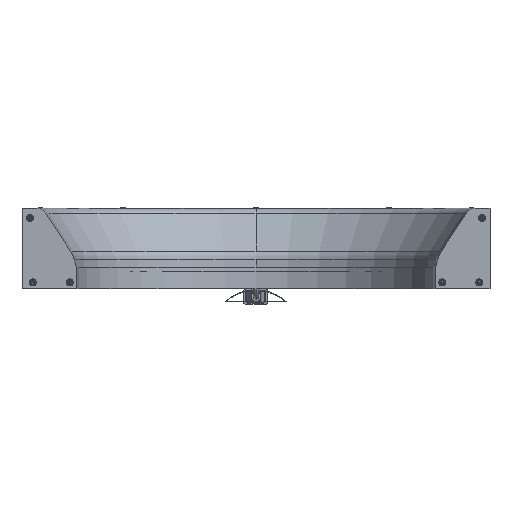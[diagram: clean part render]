
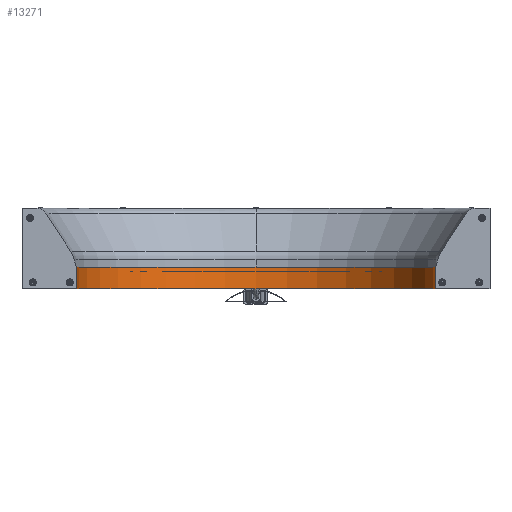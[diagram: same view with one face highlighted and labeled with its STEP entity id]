
A CAD part, left-side view. The second image highlights one B-rep face of the part: STEP entity #13271.
In plain terms, the highlighted cylindrical face has radius 82.5 mm (diameter 165 mm), a partial arc.
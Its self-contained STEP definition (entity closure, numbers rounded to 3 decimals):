
#11757=CARTESIAN_POINT('',(8.618,-138.567,52.822));
#11758=VERTEX_POINT('',#11757);
#11804=CARTESIAN_POINT('',(8.618,26.433,52.822));
#11805=VERTEX_POINT('',#11804);
#11934=CARTESIAN_POINT('',(8.618,-138.567,42.822));
#11935=VERTEX_POINT('',#11934);
#11936=CARTESIAN_POINT('',(8.618,-138.567,52.822));
#11937=DIRECTION('',(0.,0.,-1.));
#11938=VECTOR('',#11937,10.);
#11939=LINE('',#11936,#11938);
#11940=EDGE_CURVE('',#11758,#11935,#11939,.T.);
#11956=CARTESIAN_POINT('',(8.618,26.433,42.822));
#11957=VERTEX_POINT('',#11956);
#11958=CARTESIAN_POINT('',(8.618,-56.067,42.822));
#11959=DIRECTION('',(0.,-1.,0.));
#11960=DIRECTION('',(0.,0.,1.));
#11961=AXIS2_PLACEMENT_3D('',#11958,#11960,#11959);
#11962=CIRCLE('',#11961,82.5);
#11963=EDGE_CURVE('',#11935,#11957,#11962,.T.);
#12256=CARTESIAN_POINT('',(8.618,26.433,42.822));
#12257=DIRECTION('',(0.,0.,1.));
#12258=VECTOR('',#12257,10.);
#12259=LINE('',#12256,#12258);
#12260=EDGE_CURVE('',#11957,#11805,#12259,.T.);
#13195=CARTESIAN_POINT('',(8.618,-56.067,52.822));
#13196=DIRECTION('',(0.,1.,0.));
#13197=DIRECTION('',(0.,0.,-1.));
#13198=AXIS2_PLACEMENT_3D('',#13195,#13197,#13196);
#13199=CIRCLE('',#13198,82.5);
#13200=EDGE_CURVE('',#11805,#11758,#13199,.T.);
#13260=CARTESIAN_POINT('',(8.618,-56.067,52.822));
#13261=DIRECTION('',(0.,1.,0.));
#13262=DIRECTION('',(0.,0.,-1.));
#13263=AXIS2_PLACEMENT_3D('',#13260,#13262,#13261);
#13264=CYLINDRICAL_SURFACE('',#13263,82.5);
#13265=ORIENTED_EDGE('',*,*,#13200,.F.);
#13266=ORIENTED_EDGE('',*,*,#12260,.F.);
#13267=ORIENTED_EDGE('',*,*,#11963,.F.);
#13268=ORIENTED_EDGE('',*,*,#11940,.F.);
#13269=EDGE_LOOP('',(#13265,#13266,#13267,#13268));
#13270=FACE_OUTER_BOUND('',#13269,.T.);
#13271=ADVANCED_FACE('',(#13270),#13264,.F.);
